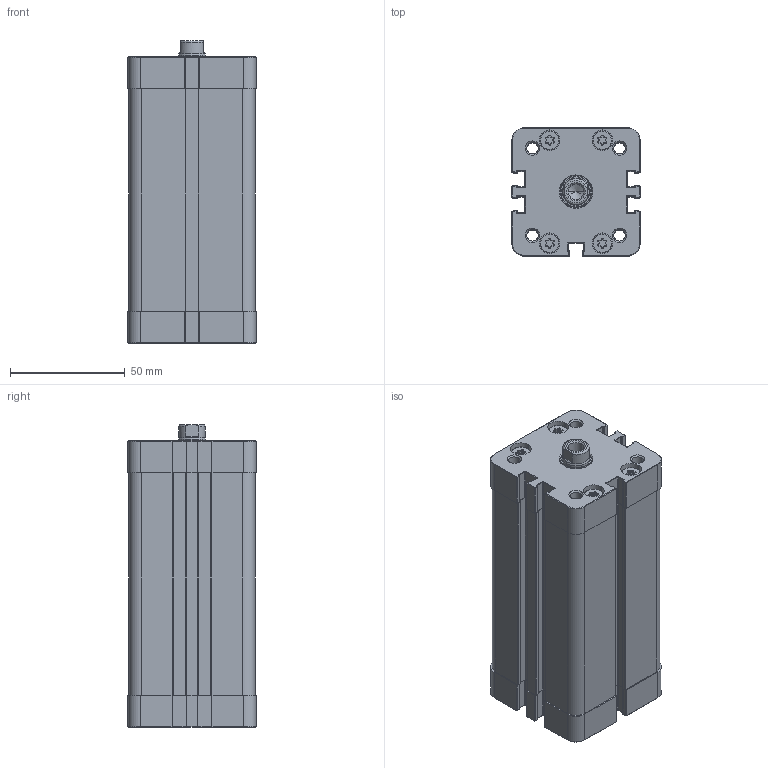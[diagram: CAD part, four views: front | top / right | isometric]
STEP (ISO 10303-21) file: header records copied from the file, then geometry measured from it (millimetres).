
FILE_DESCRIPTION (( 'STEP AP214' ), '1' );
FILE_NAME ('Q11M20400080.STEP', '2021-09-17T15:14:23', ( '' ), ( '' ), 'SwSTEP 2.0', 'SolidWorks 2016', '' );
FILE_SCHEMA (( 'AUTOMOTIVE_DESIGN' ));
Length unit declared in the file: millimetre
Products named in the file (6): 39.D01.000_39.D01.080; Q11M20400080; TA Ø40 ISO 21287 WEB; 000.554.7_000.554.0080; TP Ø40 ISO 21287 WEB; Pistone Ø40 ISO 21287 WEB
Assembly tree (5 placements, depth 2):
  Q11M20400080
    TA Ø40 ISO 21287 WEB
    TP Ø40 ISO 21287 WEB
    000.554.7_000.554.0080
    39.D01.000_39.D01.080
    Pistone Ø40 ISO 21287 WEB
Bounding box: 56 x 56 x 132 mm (x, y, z)
Volume: 196365.9 mm3; surface area: 105430 mm2
Topology: 14 solids, 14 shells, 1311 faces, 3198 edges, 1913 vertices
Faces by surface type: cylinder 537, plane 418, torus 180, cone 176
Entity records: 50217 total; most frequent: DIRECTION 7256, CARTESIAN_POINT 6468, ORIENTED_EDGE 6312, EDGE_CURVE 3156, AXIS2_PLACEMENT_3D 2793, VERTEX_POINT 1913, LINE 1670, VECTOR 1670
